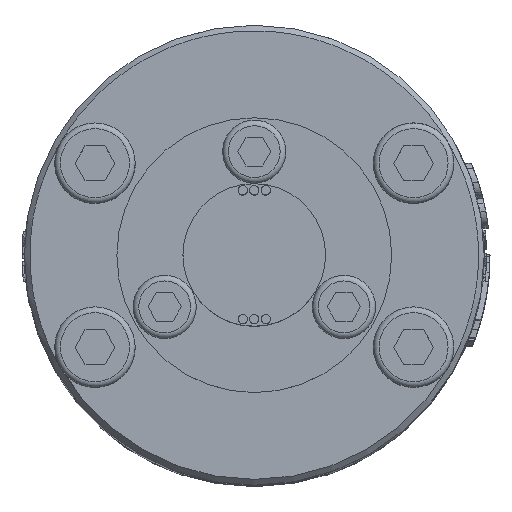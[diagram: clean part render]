
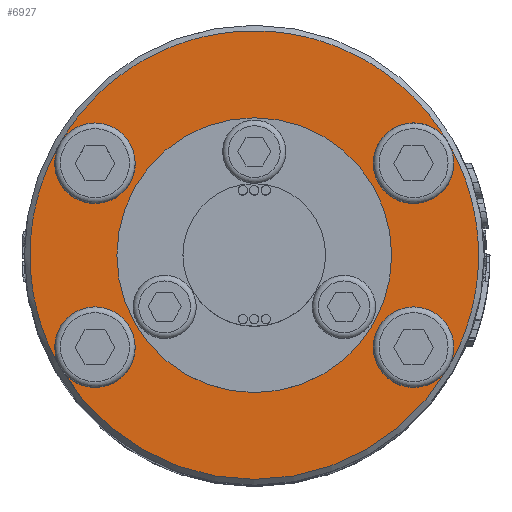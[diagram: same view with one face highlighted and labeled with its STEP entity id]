
A CAD part, top view. The second image highlights one B-rep face of the part: STEP entity #6927.
In plain terms, the highlighted planar face has unit normal (0, 0, 1).
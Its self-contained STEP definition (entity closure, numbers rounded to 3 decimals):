
#4035=PLANE('',#28735);
#6927=ADVANCED_FACE('',(#10820,#10821),#4035,.T.);
#10820=FACE_BOUND('',#12576,.T.);
#10821=FACE_BOUND('',#12577,.T.);
#12576=EDGE_LOOP('',(#20483,#20484,#20485,#20486,#20487,#20488,#20489,#20490));
#12577=EDGE_LOOP('',(#20491));
#20483=ORIENTED_EDGE('',*,*,#27277,.T.);
#20484=ORIENTED_EDGE('',*,*,#27198,.F.);
#20485=ORIENTED_EDGE('',*,*,#27276,.T.);
#20486=ORIENTED_EDGE('',*,*,#27261,.F.);
#20487=ORIENTED_EDGE('',*,*,#27275,.T.);
#20488=ORIENTED_EDGE('',*,*,#27240,.F.);
#20489=ORIENTED_EDGE('',*,*,#27278,.T.);
#20490=ORIENTED_EDGE('',*,*,#27219,.F.);
#20491=ORIENTED_EDGE('',*,*,#27185,.F.);
#23232=VERTEX_POINT('',#57320);
#23245=VERTEX_POINT('',#57356);
#23260=VERTEX_POINT('',#57402);
#23275=VERTEX_POINT('',#57448);
#23290=VERTEX_POINT('',#57494);
#27185=EDGE_CURVE('',#23232,#23232,#27581,.T.);
#27198=EDGE_CURVE('',#23245,#23245,#27588,.T.);
#27219=EDGE_CURVE('',#23260,#23260,#27591,.T.);
#27240=EDGE_CURVE('',#23275,#23275,#27594,.T.);
#27261=EDGE_CURVE('',#23290,#23290,#27597,.T.);
#27275=EDGE_CURVE('',#23290,#23275,#27599,.T.);
#27276=EDGE_CURVE('',#23245,#23290,#27600,.T.);
#27277=EDGE_CURVE('',#23260,#23245,#27601,.T.);
#27278=EDGE_CURVE('',#23275,#23260,#27602,.T.);
#27581=CIRCLE('',#28660,11.95);
#27588=CIRCLE('',#28677,3.5);
#27591=CIRCLE('',#28690,3.5);
#27594=CIRCLE('',#28703,3.5);
#27597=CIRCLE('',#28716,3.5);
#27599=CIRCLE('',#28728,19.5);
#27600=CIRCLE('',#28729,19.5);
#27601=CIRCLE('',#28730,19.5);
#27602=CIRCLE('',#28731,19.5);
#28660=AXIS2_PLACEMENT_3D('',#57319,#32328,#32329);
#28677=AXIS2_PLACEMENT_3D('',#57355,#32368,#32369);
#28690=AXIS2_PLACEMENT_3D('',#57401,#32412,#32413);
#28703=AXIS2_PLACEMENT_3D('',#57447,#32456,#32457);
#28716=AXIS2_PLACEMENT_3D('',#57493,#32500,#32501);
#28728=AXIS2_PLACEMENT_3D('',#57525,#32536,#32537);
#28729=AXIS2_PLACEMENT_3D('',#57526,#32538,#32539);
#28730=AXIS2_PLACEMENT_3D('',#57527,#32540,#32541);
#28731=AXIS2_PLACEMENT_3D('',#57528,#32542,#32543);
#28735=AXIS2_PLACEMENT_3D('',#57533,#32550,#32551);
#32328=DIRECTION('',(0.,0.,1.));
#32329=DIRECTION('',(0.,1.,0.));
#32368=DIRECTION('',(0.,0.,1.));
#32369=DIRECTION('',(1.,0.,0.));
#32412=DIRECTION('',(0.,0.,1.));
#32413=DIRECTION('',(1.,0.,0.));
#32456=DIRECTION('',(0.,0.,1.));
#32457=DIRECTION('',(1.,0.,0.));
#32500=DIRECTION('',(0.,0.,1.));
#32501=DIRECTION('',(1.,0.,0.));
#32536=DIRECTION('',(0.,0.,1.));
#32537=DIRECTION('',(1.,0.,0.));
#32538=DIRECTION('',(0.,0.,1.));
#32539=DIRECTION('',(1.,0.,0.));
#32540=DIRECTION('',(0.,0.,1.));
#32541=DIRECTION('',(1.,0.,0.));
#32542=DIRECTION('',(0.,0.,1.));
#32543=DIRECTION('',(1.,0.,0.));
#32550=DIRECTION('',(0.,0.,1.));
#32551=DIRECTION('',(1.,0.,0.));
#57319=CARTESIAN_POINT('',(0.,0.,94.));
#57320=CARTESIAN_POINT('',(0.,11.95,94.));
#57355=CARTESIAN_POINT('',(13.856,8.,94.));
#57356=CARTESIAN_POINT('',(16.887,9.75,94.));
#57401=CARTESIAN_POINT('',(13.856,-8.,94.));
#57402=CARTESIAN_POINT('',(16.887,-9.75,94.));
#57447=CARTESIAN_POINT('',(-13.856,-8.,94.));
#57448=CARTESIAN_POINT('',(-16.887,-9.75,94.));
#57493=CARTESIAN_POINT('',(-13.856,8.,94.));
#57494=CARTESIAN_POINT('',(-16.887,9.75,94.));
#57525=CARTESIAN_POINT('',(0.,0.,94.));
#57526=CARTESIAN_POINT('',(0.,0.,94.));
#57527=CARTESIAN_POINT('',(0.,0.,94.));
#57528=CARTESIAN_POINT('',(0.,0.,94.));
#57533=CARTESIAN_POINT('',(0.,0.,94.));
